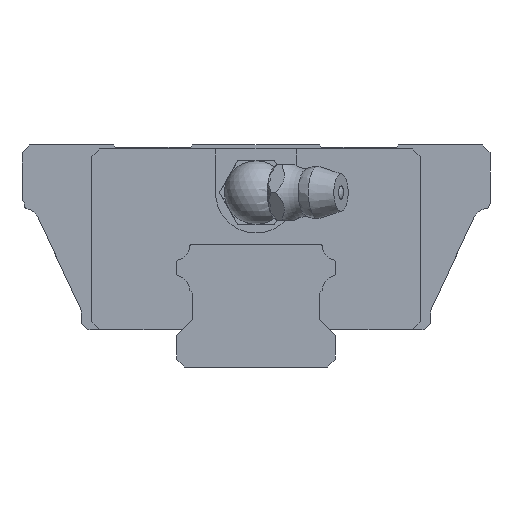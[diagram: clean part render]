
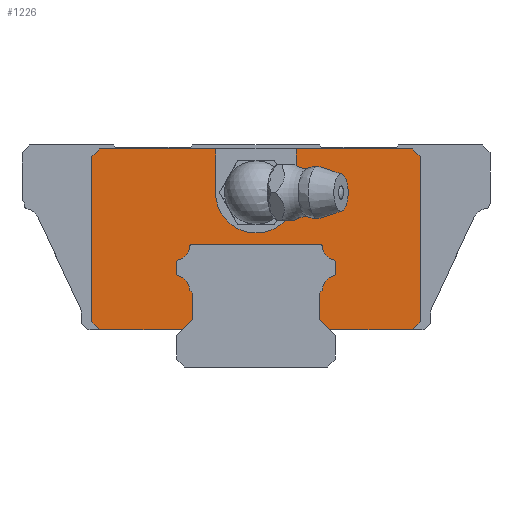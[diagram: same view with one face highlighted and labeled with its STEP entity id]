
A CAD part, front view. The second image highlights one B-rep face of the part: STEP entity #1226.
In plain terms, the highlighted planar face has unit normal (0, -1, 0).
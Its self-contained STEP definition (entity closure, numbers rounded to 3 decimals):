
#409=FACE_OUTER_BOUND('',#1688,.T.);
#573=LINE('',#5491,#901);
#577=LINE('',#5502,#905);
#579=LINE('',#5507,#907);
#597=LINE('',#5552,#925);
#598=LINE('',#5554,#926);
#599=LINE('',#5557,#927);
#600=LINE('',#5563,#928);
#601=LINE('',#5571,#929);
#602=LINE('',#5579,#930);
#603=LINE('',#5585,#931);
#604=LINE('',#5587,#932);
#605=LINE('',#5589,#933);
#606=LINE('',#5590,#934);
#607=LINE('',#5591,#935);
#608=LINE('',#5593,#936);
#609=LINE('',#5595,#937);
#610=LINE('',#5599,#938);
#611=LINE('',#5601,#939);
#612=LINE('',#5603,#940);
#613=LINE('',#5604,#941);
#614=LINE('',#5605,#942);
#901=VECTOR('',#4410,1.);
#905=VECTOR('',#4418,1.);
#907=VECTOR('',#4422,1.);
#925=VECTOR('',#4450,1.);
#926=VECTOR('',#4453,1.);
#927=VECTOR('',#4454,1.);
#928=VECTOR('',#4459,1.);
#929=VECTOR('',#4466,1.);
#930=VECTOR('',#4473,1.);
#931=VECTOR('',#4478,1.);
#932=VECTOR('',#4479,1.);
#933=VECTOR('',#4480,1.);
#934=VECTOR('',#4481,1.);
#935=VECTOR('',#4482,1.);
#936=VECTOR('',#4483,1.);
#937=VECTOR('',#4484,1.);
#938=VECTOR('',#4487,1.);
#939=VECTOR('',#4488,1.);
#940=VECTOR('',#4489,1.);
#941=VECTOR('',#4490,1.);
#942=VECTOR('',#4491,1.);
#1226=ADVANCED_FACE('',(#409),#1436,.T.);
#1436=PLANE('',#4034);
#1688=EDGE_LOOP('',(#1993,#1994,#1995,#1996,#1997,#1998,#1999,#2000,#2001,
#2002,#2003,#2004,#2005,#2006,#2007,#2008,#2009,#2010,#2011,#2012,#2013,
#2014,#2015,#2016,#2017,#2018,#2019,#2020,#2021,#2022,#2023,#2024));
#1993=ORIENTED_EDGE('',*,*,#3387,.F.);
#1994=ORIENTED_EDGE('',*,*,#3388,.F.);
#1995=ORIENTED_EDGE('',*,*,#3389,.F.);
#1996=ORIENTED_EDGE('',*,*,#3390,.F.);
#1997=ORIENTED_EDGE('',*,*,#3391,.F.);
#1998=ORIENTED_EDGE('',*,*,#3392,.F.);
#1999=ORIENTED_EDGE('',*,*,#3393,.F.);
#2000=ORIENTED_EDGE('',*,*,#3394,.F.);
#2001=ORIENTED_EDGE('',*,*,#3395,.F.);
#2002=ORIENTED_EDGE('',*,*,#3396,.F.);
#2003=ORIENTED_EDGE('',*,*,#3397,.F.);
#2004=ORIENTED_EDGE('',*,*,#3398,.F.);
#2005=ORIENTED_EDGE('',*,*,#3399,.F.);
#2006=ORIENTED_EDGE('',*,*,#3400,.F.);
#2007=ORIENTED_EDGE('',*,*,#3401,.F.);
#2008=ORIENTED_EDGE('',*,*,#3402,.F.);
#2009=ORIENTED_EDGE('',*,*,#3403,.F.);
#2010=ORIENTED_EDGE('',*,*,#3404,.F.);
#2011=ORIENTED_EDGE('',*,*,#3386,.F.);
#2012=ORIENTED_EDGE('',*,*,#3405,.F.);
#2013=ORIENTED_EDGE('',*,*,#3362,.F.);
#2014=ORIENTED_EDGE('',*,*,#3406,.F.);
#2015=ORIENTED_EDGE('',*,*,#3407,.F.);
#2016=ORIENTED_EDGE('',*,*,#3408,.T.);
#2017=ORIENTED_EDGE('',*,*,#3409,.T.);
#2018=ORIENTED_EDGE('',*,*,#3410,.T.);
#2019=ORIENTED_EDGE('',*,*,#3411,.F.);
#2020=ORIENTED_EDGE('',*,*,#3412,.F.);
#2021=ORIENTED_EDGE('',*,*,#3357,.F.);
#2022=ORIENTED_EDGE('',*,*,#3413,.F.);
#2023=ORIENTED_EDGE('',*,*,#3364,.F.);
#2024=ORIENTED_EDGE('',*,*,#3414,.F.);
#2995=VERTEX_POINT('',#5486);
#2997=VERTEX_POINT('',#5490);
#3000=VERTEX_POINT('',#5497);
#3002=VERTEX_POINT('',#5501);
#3004=VERTEX_POINT('',#5506);
#3005=VERTEX_POINT('',#5508);
#3015=VERTEX_POINT('',#5530);
#3026=VERTEX_POINT('',#5551);
#3027=VERTEX_POINT('',#5555);
#3028=VERTEX_POINT('',#5556);
#3029=VERTEX_POINT('',#5558);
#3030=VERTEX_POINT('',#5560);
#3031=VERTEX_POINT('',#5562);
#3032=VERTEX_POINT('',#5564);
#3033=VERTEX_POINT('',#5566);
#3034=VERTEX_POINT('',#5568);
#3035=VERTEX_POINT('',#5570);
#3036=VERTEX_POINT('',#5572);
#3037=VERTEX_POINT('',#5574);
#3038=VERTEX_POINT('',#5576);
#3039=VERTEX_POINT('',#5578);
#3040=VERTEX_POINT('',#5580);
#3041=VERTEX_POINT('',#5582);
#3042=VERTEX_POINT('',#5584);
#3043=VERTEX_POINT('',#5586);
#3044=VERTEX_POINT('',#5588);
#3045=VERTEX_POINT('',#5592);
#3046=VERTEX_POINT('',#5594);
#3047=VERTEX_POINT('',#5596);
#3048=VERTEX_POINT('',#5598);
#3049=VERTEX_POINT('',#5600);
#3050=VERTEX_POINT('',#5602);
#3357=EDGE_CURVE('',#2997,#2995,#573,.T.);
#3362=EDGE_CURVE('',#3002,#3000,#577,.T.);
#3364=EDGE_CURVE('',#3004,#3005,#579,.T.);
#3386=EDGE_CURVE('',#3026,#3015,#597,.T.);
#3387=EDGE_CURVE('',#3027,#3028,#598,.T.);
#3388=EDGE_CURVE('',#3029,#3027,#599,.T.);
#3389=EDGE_CURVE('',#3030,#3029,#3868,.T.);
#3390=EDGE_CURVE('',#3031,#3030,#3869,.T.);
#3391=EDGE_CURVE('',#3032,#3031,#600,.T.);
#3392=EDGE_CURVE('',#3033,#3032,#3870,.T.);
#3393=EDGE_CURVE('',#3034,#3033,#3871,.T.);
#3394=EDGE_CURVE('',#3035,#3034,#3872,.T.);
#3395=EDGE_CURVE('',#3036,#3035,#601,.T.);
#3396=EDGE_CURVE('',#3037,#3036,#3873,.T.);
#3397=EDGE_CURVE('',#3038,#3037,#3874,.T.);
#3398=EDGE_CURVE('',#3039,#3038,#3875,.T.);
#3399=EDGE_CURVE('',#3040,#3039,#602,.T.);
#3400=EDGE_CURVE('',#3041,#3040,#3876,.T.);
#3401=EDGE_CURVE('',#3042,#3041,#3877,.T.);
#3402=EDGE_CURVE('',#3043,#3042,#603,.T.);
#3403=EDGE_CURVE('',#3044,#3043,#604,.T.);
#3404=EDGE_CURVE('',#3015,#3044,#605,.T.);
#3405=EDGE_CURVE('',#3000,#3026,#606,.T.);
#3406=EDGE_CURVE('',#3045,#3002,#607,.T.);
#3407=EDGE_CURVE('',#3046,#3045,#608,.T.);
#3408=EDGE_CURVE('',#3046,#3047,#609,.T.);
#3409=EDGE_CURVE('',#3047,#3048,#3878,.T.);
#3410=EDGE_CURVE('',#3048,#3049,#610,.T.);
#3411=EDGE_CURVE('',#3050,#3049,#611,.T.);
#3412=EDGE_CURVE('',#2995,#3050,#612,.T.);
#3413=EDGE_CURVE('',#3005,#2997,#613,.T.);
#3414=EDGE_CURVE('',#3028,#3004,#614,.T.);
#3868=CIRCLE('',#4023,1.9);
#3869=CIRCLE('',#4024,0.3);
#3870=CIRCLE('',#4025,0.3);
#3871=CIRCLE('',#4026,1.9);
#3872=CIRCLE('',#4027,0.3);
#3873=CIRCLE('',#4028,0.3);
#3874=CIRCLE('',#4029,1.9);
#3875=CIRCLE('',#4030,0.3);
#3876=CIRCLE('',#4031,0.3);
#3877=CIRCLE('',#4032,1.9);
#3878=CIRCLE('',#4033,5.1);
#4023=AXIS2_PLACEMENT_3D('',#5559,#4455,#4456);
#4024=AXIS2_PLACEMENT_3D('',#5561,#4457,#4458);
#4025=AXIS2_PLACEMENT_3D('',#5565,#4460,#4461);
#4026=AXIS2_PLACEMENT_3D('',#5567,#4462,#4463);
#4027=AXIS2_PLACEMENT_3D('',#5569,#4464,#4465);
#4028=AXIS2_PLACEMENT_3D('',#5573,#4467,#4468);
#4029=AXIS2_PLACEMENT_3D('',#5575,#4469,#4470);
#4030=AXIS2_PLACEMENT_3D('',#5577,#4471,#4472);
#4031=AXIS2_PLACEMENT_3D('',#5581,#4474,#4475);
#4032=AXIS2_PLACEMENT_3D('',#5583,#4476,#4477);
#4033=AXIS2_PLACEMENT_3D('',#5597,#4485,#4486);
#4034=AXIS2_PLACEMENT_3D('',#5606,#4492,#4493);
#4410=DIRECTION('',(0.,0.,1.));
#4418=DIRECTION('',(0.,0.,-1.));
#4422=DIRECTION('',(-1.,0.,0.));
#4450=DIRECTION('',(-1.,0.,0.));
#4453=DIRECTION('',(0.,0.,-1.));
#4454=DIRECTION('',(0.707,0.,-0.707));
#4455=DIRECTION('',(0.,1.,0.));
#4456=DIRECTION('',(0.,0.,-1.));
#4457=DIRECTION('',(0.,-1.,0.));
#4458=DIRECTION('',(0.,0.,-1.));
#4459=DIRECTION('',(0.,0.,-1.));
#4460=DIRECTION('',(0.,-1.,0.));
#4461=DIRECTION('',(0.,0.,-1.));
#4462=DIRECTION('',(0.,1.,0.));
#4463=DIRECTION('',(0.,0.,-1.));
#4464=DIRECTION('',(0.,-1.,0.));
#4465=DIRECTION('',(0.,0.,-1.));
#4466=DIRECTION('',(-1.,0.,0.));
#4467=DIRECTION('',(0.,-1.,0.));
#4468=DIRECTION('',(0.,0.,-1.));
#4469=DIRECTION('',(0.,1.,0.));
#4470=DIRECTION('',(0.,0.,-1.));
#4471=DIRECTION('',(0.,-1.,0.));
#4472=DIRECTION('',(0.,0.,-1.));
#4473=DIRECTION('',(0.,0.,1.));
#4474=DIRECTION('',(0.,-1.,0.));
#4475=DIRECTION('',(0.,0.,-1.));
#4476=DIRECTION('',(0.,1.,0.));
#4477=DIRECTION('',(0.,0.,-1.));
#4478=DIRECTION('',(0.707,0.,0.707));
#4479=DIRECTION('',(0.,0.,1.));
#4480=DIRECTION('',(-0.707,0.,0.707));
#4481=DIRECTION('',(-0.707,0.,-0.707));
#4482=DIRECTION('',(0.707,0.,-0.707));
#4483=DIRECTION('',(1.,0.,0.));
#4484=DIRECTION('',(0.,0.,-1.));
#4485=DIRECTION('',(0.,1.,0.));
#4486=DIRECTION('',(-1.,0.,0.));
#4487=DIRECTION('',(0.,0.,1.));
#4488=DIRECTION('',(1.,0.,0.));
#4489=DIRECTION('',(0.707,0.,0.707));
#4490=DIRECTION('',(-0.707,0.,0.707));
#4491=DIRECTION('',(-0.707,0.,-0.707));
#4492=DIRECTION('',(0.,-1.,0.));
#4493=DIRECTION('',(0.,0.,-1.));
#5486=CARTESIAN_POINT('',(-20.7,-10.1,26.5));
#5490=CARTESIAN_POINT('',(-20.7,-10.1,5.7));
#5491=CARTESIAN_POINT('',(-20.7,-10.1,5.7));
#5497=CARTESIAN_POINT('',(20.7,-10.1,5.7));
#5501=CARTESIAN_POINT('',(20.7,-10.1,26.5));
#5502=CARTESIAN_POINT('',(20.7,-10.1,26.5));
#5506=CARTESIAN_POINT('',(-9.3,-10.1,4.7));
#5507=CARTESIAN_POINT('',(19.7,-10.1,4.7));
#5508=CARTESIAN_POINT('',(-19.7,-10.1,4.7));
#5530=CARTESIAN_POINT('',(9.3,-10.1,4.7));
#5551=CARTESIAN_POINT('',(19.7,-10.1,4.7));
#5552=CARTESIAN_POINT('',(19.7,-10.1,4.7));
#5554=CARTESIAN_POINT('',(-8.,-10.1,22.));
#5555=CARTESIAN_POINT('',(-8.,-10.1,9.3));
#5556=CARTESIAN_POINT('',(-8.,-10.1,6.));
#5557=CARTESIAN_POINT('',(-10.35,-10.1,11.65));
#5558=CARTESIAN_POINT('',(-8.349,-10.1,9.649));
#5559=CARTESIAN_POINT('',(-10.249,-10.1,9.651));
#5560=CARTESIAN_POINT('',(-9.775,-10.1,11.49));
#5561=CARTESIAN_POINT('',(-9.7,-10.1,11.781));
#5562=CARTESIAN_POINT('',(-10.,-10.1,11.781));
#5563=CARTESIAN_POINT('',(-10.,-10.1,22.));
#5564=CARTESIAN_POINT('',(-10.,-10.1,13.219));
#5565=CARTESIAN_POINT('',(-9.7,-10.1,13.219));
#5566=CARTESIAN_POINT('',(-9.775,-10.1,13.51));
#5567=CARTESIAN_POINT('',(-10.249,-10.1,15.349));
#5568=CARTESIAN_POINT('',(-8.354,-10.1,15.22));
#5569=CARTESIAN_POINT('',(-8.055,-10.1,15.2));
#5570=CARTESIAN_POINT('',(-8.055,-10.1,15.5));
#5571=CARTESIAN_POINT('',(0.,-10.1,15.5));
#5572=CARTESIAN_POINT('',(8.055,-10.1,15.5));
#5573=CARTESIAN_POINT('',(8.055,-10.1,15.2));
#5574=CARTESIAN_POINT('',(8.354,-10.1,15.22));
#5575=CARTESIAN_POINT('',(10.249,-10.1,15.349));
#5576=CARTESIAN_POINT('',(9.775,-10.1,13.51));
#5577=CARTESIAN_POINT('',(9.7,-10.1,13.219));
#5578=CARTESIAN_POINT('',(10.,-10.1,13.219));
#5579=CARTESIAN_POINT('',(10.,-10.1,22.));
#5580=CARTESIAN_POINT('',(10.,-10.1,11.781));
#5581=CARTESIAN_POINT('',(9.7,-10.1,11.781));
#5582=CARTESIAN_POINT('',(9.775,-10.1,11.49));
#5583=CARTESIAN_POINT('',(10.249,-10.1,9.651));
#5584=CARTESIAN_POINT('',(8.349,-10.1,9.649));
#5585=CARTESIAN_POINT('',(10.35,-10.1,11.65));
#5586=CARTESIAN_POINT('',(8.,-10.1,9.3));
#5587=CARTESIAN_POINT('',(8.,-10.1,22.));
#5588=CARTESIAN_POINT('',(8.,-10.1,6.));
#5589=CARTESIAN_POINT('',(-4.,-10.1,18.));
#5590=CARTESIAN_POINT('',(20.7,-10.1,5.7));
#5591=CARTESIAN_POINT('',(19.7,-10.1,27.5));
#5592=CARTESIAN_POINT('',(19.7,-10.1,27.5));
#5593=CARTESIAN_POINT('',(-19.7,-10.1,27.5));
#5594=CARTESIAN_POINT('',(5.1,-10.1,27.5));
#5595=CARTESIAN_POINT('',(5.1,-10.1,27.5));
#5596=CARTESIAN_POINT('',(5.1,-10.1,22.));
#5597=CARTESIAN_POINT('',(0.,-10.1,22.));
#5598=CARTESIAN_POINT('',(-5.1,-10.1,22.));
#5599=CARTESIAN_POINT('',(-5.1,-10.1,22.));
#5600=CARTESIAN_POINT('',(-5.1,-10.1,27.5));
#5601=CARTESIAN_POINT('',(-19.7,-10.1,27.5));
#5602=CARTESIAN_POINT('',(-19.7,-10.1,27.5));
#5603=CARTESIAN_POINT('',(-20.7,-10.1,26.5));
#5604=CARTESIAN_POINT('',(-19.7,-10.1,4.7));
#5605=CARTESIAN_POINT('',(4.,-10.1,18.));
#5606=CARTESIAN_POINT('',(0.,-10.1,22.));
